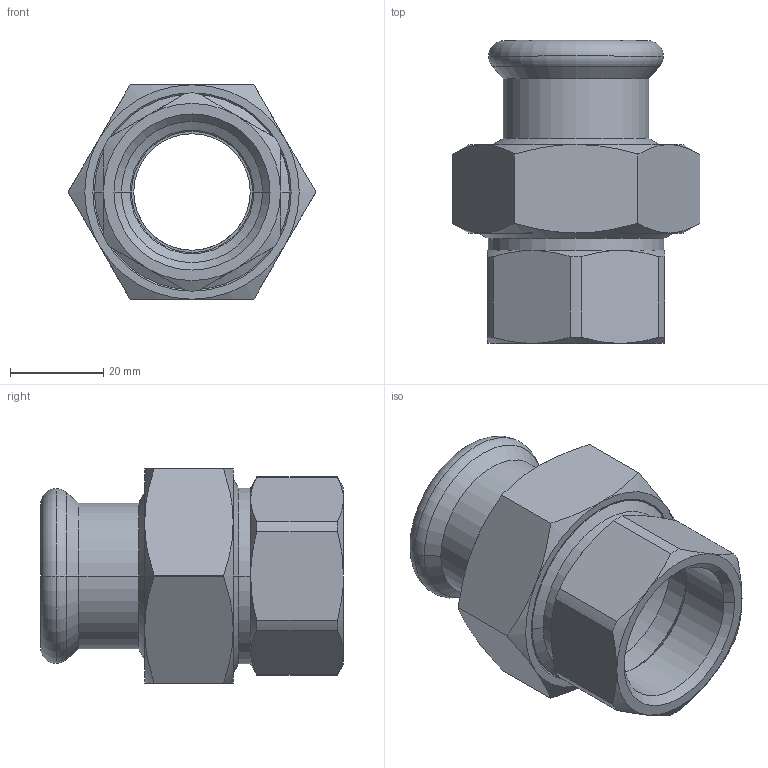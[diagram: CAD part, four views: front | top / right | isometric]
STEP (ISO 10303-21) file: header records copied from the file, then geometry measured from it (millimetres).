
FILE_DESCRIPTION(('CoCreate Modeling STEP Export'),'2;1');
FILE_NAME('C1444 28xRp1.stp','2014-11-12T16:45:46',(''),(''),'CoCreate Modeling STEP processor for AP214 (Solid Model)','CoCreate Modeling 17.00A 17-Jun-2010 (C) Parametric Technology GmbH','');
FILE_SCHEMA(('AUTOMOTIVE_DESIGN { 1 0 10303 214 1 1 1 1 }'));
Length unit declared in the file: millimetre
Products named in the file (2): c1444_28xRp1
Assembly tree (1 placements, depth 2):
  c1444_28xRp1
    c1444_28xRp1
Bounding box: 53.12 x 65 x 46 mm (x, y, z)
Volume: 38107.5 mm3; surface area: 19988.4 mm2
Topology: 1 solids, 1 shells, 116 faces, 259 edges, 151 vertices
Faces by surface type: cone 46, cylinder 42, plane 20, torus 8
Entity records: 4350 total; most frequent: CARTESIAN_POINT 2231, ORIENTED_EDGE 518, DIRECTION 308, EDGE_CURVE 259, VERTEX_POINT 151, EDGE_LOOP 124, FACE_OUTER_BOUND 116, ADVANCED_FACE 116
